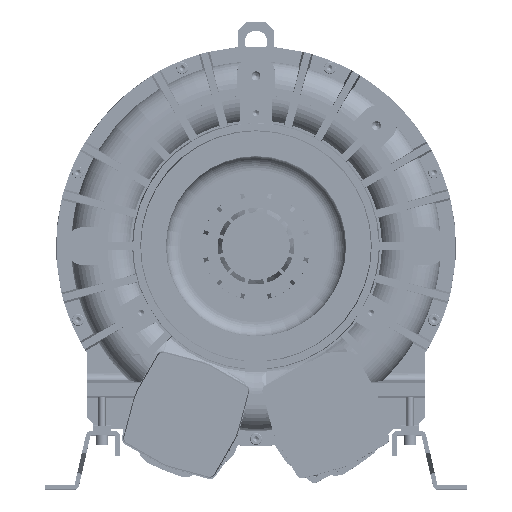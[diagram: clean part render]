
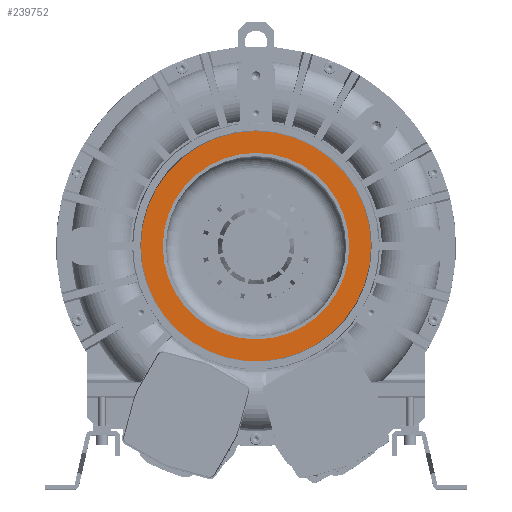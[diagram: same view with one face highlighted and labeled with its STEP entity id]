
A CAD part, top view. The second image highlights one B-rep face of the part: STEP entity #239752.
In plain terms, the highlighted planar face has unit normal (0, 0, 1).
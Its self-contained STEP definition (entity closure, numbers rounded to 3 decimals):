
#13410 = EDGE_LOOP ( 'NONE', ( #82665 ) ) ;
#14529 = ORIENTED_EDGE ( 'NONE', *, *, #70904, .F. ) ;
#19725 = PLANE ( 'NONE',  #177795 ) ;
#45139 = EDGE_LOOP ( 'NONE', ( #14529 ) ) ;
#52921 = VERTEX_POINT ( 'NONE', #243978 ) ;
#55334 = DIRECTION ( 'NONE',  ( 0., 0., 1. ) ) ;
#55967 = FACE_BOUND ( 'NONE', #45139, .T. ) ;
#61914 = DIRECTION ( 'NONE',  ( 0., 0., 1. ) ) ;
#63814 = CARTESIAN_POINT ( 'NONE',  ( -127.694, 0., 212.5 ) ) ;
#67240 = AXIS2_PLACEMENT_3D ( 'NONE', #146356, #61914, #214234 ) ;
#70904 = EDGE_CURVE ( 'NONE', #52921, #52921, #242639, .T. ) ;
#82665 = ORIENTED_EDGE ( 'NONE', *, *, #214589, .T. ) ;
#94005 = CARTESIAN_POINT ( 'NONE',  ( 0., 0., 212.5 ) ) ;
#109689 = DIRECTION ( 'NONE',  ( -1., 0., 0. ) ) ;
#111521 = DIRECTION ( 'NONE',  ( -1., 0., 0. ) ) ;
#128382 = FACE_OUTER_BOUND ( 'NONE', #13410, .T. ) ;
#129595 = DIRECTION ( 'NONE',  ( 0., 0., -1. ) ) ;
#132063 = CARTESIAN_POINT ( 'NONE',  ( 0., 0., 212.5 ) ) ;
#144181 = CIRCLE ( 'NONE', #211893, 127.694 ) ;
#146356 = CARTESIAN_POINT ( 'NONE',  ( 0., 0., 212.5 ) ) ;
#177795 = AXIS2_PLACEMENT_3D ( 'NONE', #132063, #129595, #109689 ) ;
#196133 = VERTEX_POINT ( 'NONE', #63814 ) ;
#211893 = AXIS2_PLACEMENT_3D ( 'NONE', #94005, #55334, #111521 ) ;
#214234 = DIRECTION ( 'NONE',  ( 1., 0., 0. ) ) ;
#214589 = EDGE_CURVE ( 'NONE', #196133, #196133, #144181, .T. ) ;
#239752 = ADVANCED_FACE ( 'NONE', ( #55967, #128382 ), #19725, .F. ) ;
#242639 = CIRCLE ( 'NONE', #67240, 103.5 ) ;
#243978 = CARTESIAN_POINT ( 'NONE',  ( 103.5, 0., 212.5 ) ) ;
